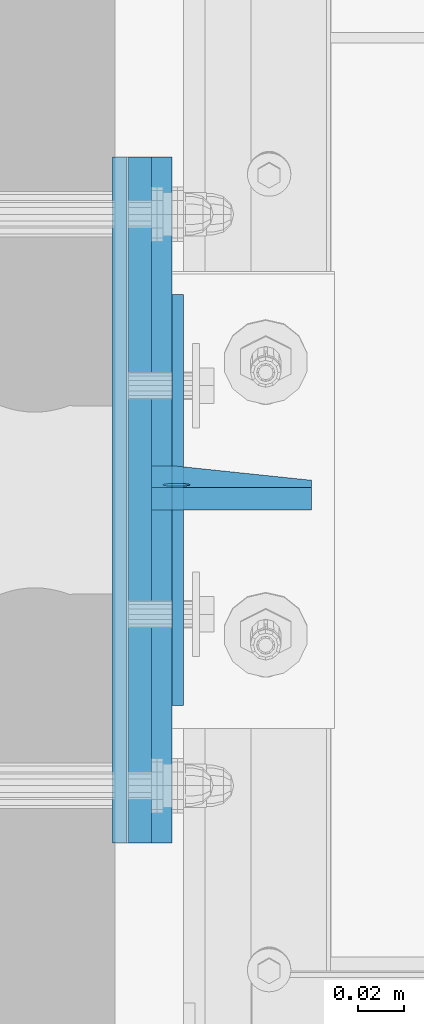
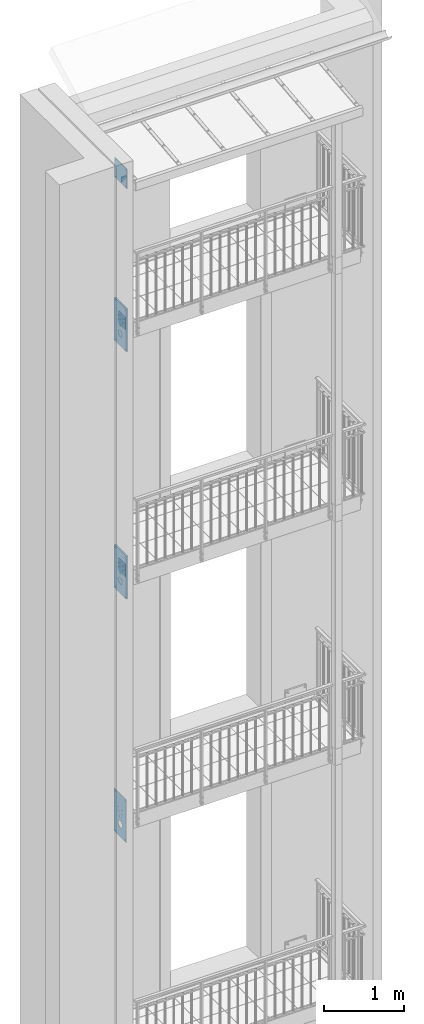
# One storey, part 55 of 162: 9 plates, 54 openings.
"""IFC2X3 building model written with IfcOpenShell, lengths in millimetres."""

from ifc_helpers import new_model, entity, si_unit, converted_unit, point, frame, frame_2d, origin, origin_with_axes, place, context, project, spatial, polyline, circle_curve, line_curve, trimmed, segment, composite_curve, circle, outline, extrude, material, layer, layer_set, element, save


model = new_model("IFC2X3")

# Units and contexts
model_context = context("Model", 3, precision=1e-09, world=origin_with_axes())
ifc_project = project(units=[si_unit("LENGTHUNIT", "METRE", prefix="MILLI"), si_unit("AREAUNIT", "SQUARE_METRE"), si_unit("VOLUMEUNIT", "CUBIC_METRE"), converted_unit("PLANEANGLEUNIT", "DEGREE", entity("IfcPlaneAngleMeasure", 0.01745329), si_unit("PLANEANGLEUNIT", "RADIAN"), dimensions=[0, 0, 0, 0, 0, 0, 0])], contexts=[model_context])

# Site, building, storey
site_placement = place(None, origin_with_axes())
site = spatial("IfcSite", under=ifc_project, at=site_placement, Name="Hermannstra?e 1a, 60318 Frankfurt", CompositionType="ELEMENT")
building_placement = place(site_placement, origin_with_axes())
building = spatial("IfcBuilding", under=site, at=building_placement, Name="Struktur 1", CompositionType="ELEMENT")
storey_placement = place(building_placement, origin_with_axes())
storey = spatial("IfcBuildingStorey", under=building, at=storey_placement, Name="Default Storey", CompositionType="ELEMENT", Elevation=0.0)

# Plate, openings
ifc_material_1 = material(Name="S235JR")
ifc_layer_1 = layer(ifc_material_1, 10.0)
ifc_layer_set_1 = layer_set([ifc_layer_1], Name="S235JR")
plate_1_placement = place(None, frame((2584.30936482, 1814.439624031, 17173.204091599), z_axis=(0.0, 0.994521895, 0.104528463), x_axis=(-1.0, 0.0, 0.0)))
plate_1 = element("IfcPlate", 1, at=plate_1_placement, inside=storey, material=ifc_layer_set_1, Name="-", ObjectType="-", context=model_context, shape_type="SweptSolid", body=[
    extrude(outline(polyline([(-25.0, 37.042049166), (45.0, 37.042049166), (45.0, 127.042049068), (-25.0, 127.042049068), (-25.0, 37.042049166)])), origin_with_axes(), (0.0, 0.0, 1.0), 10.0),
])
opening_1_placement = place(plate_1_placement, frame((45.0, 102.042049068, -0.5), z_axis=(0.0, 0.0, 1.0), x_axis=(1.0, 0.0, 0.0)))
element("IfcOpeningElement", 2, at=opening_1_placement, cuts=plate_1, ObjectType="Opening", context=model_context, shape_type="SweptSolid", body=[
    extrude(circle(Radius=6.001, at=frame_2d((-11.0, 14.0), x_axis=(1.0, 0.0))), origin(), (0.0, 0.0, 1.0), 11.0),
])
opening_2_placement = place(plate_1_placement, frame((0.0, -22.042049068, -0.01), z_axis=(0.0, 0.0, 1.0), x_axis=(1.0, 0.0, 0.0)))
element("IfcOpeningElement", 3, at=opening_2_placement, cuts=plate_1, ObjectType="Opening", context=model_context, shape_type="SweptSolid", body=[
    extrude(outline(polyline([(-25.0, 59.084098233), (35.0, 59.084098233), (-25.0, 119.084098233), (-25.0, 59.084098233)])), origin(), (0.0, 0.0, 1.0), 10.02),
])

plate_2_placement = place(None, frame((2529.30936482, 1805.610081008, 17360.045442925), z_axis=(1.0, 0.0, 0.0), x_axis=(0.0, 1.0, 0.0)))
plate_2 = element("IfcPlate", 4, at=plate_2_placement, inside=storey, material=ifc_layer_set_1, Name="-", ObjectType="-", context=model_context, shape_type="SweptSolid", body=[
    extrude(outline(polyline([(-150.0, -150.0), (150.0, -150.0), (150.0, 150.0), (-150.0, 150.0), (-150.0, -150.0)])), origin_with_axes(), (0.0, 0.0, 1.0), 10.0),
])
opening_3_placement = place(plate_2_placement, frame((0.0, 0.0, -0.5), z_axis=(0.0, 0.0, 1.0), x_axis=(1.0, 0.0, 0.0)))
element("IfcOpeningElement", 5, at=opening_3_placement, cuts=plate_2, ObjectType="Opening", context=model_context, shape_type="SweptSolid", body=[
    extrude(circle(Radius=8.001, at=frame_2d((125.0, 125.0), x_axis=(1.0, 0.0))), origin(), (0.0, 0.0, 1.0), 11.0),
])
opening_4_placement = place(plate_2_placement, frame((0.0, 0.0, -0.5), z_axis=(0.0, 0.0, 1.0), x_axis=(1.0, 0.0, 0.0)))
element("IfcOpeningElement", 6, at=opening_4_placement, cuts=plate_2, ObjectType="Opening", context=model_context, shape_type="SweptSolid", body=[
    extrude(circle(Radius=8.001, at=frame_2d((-125.0, 125.0), x_axis=(1.0, 0.0))), origin(), (0.0, 0.0, 1.0), 11.0),
])
opening_5_placement = place(plate_2_placement, frame((0.0, 0.0, -0.5), z_axis=(0.0, 0.0, 1.0), x_axis=(1.0, 0.0, 0.0)))
element("IfcOpeningElement", 7, at=opening_5_placement, cuts=plate_2, ObjectType="Opening", context=model_context, shape_type="SweptSolid", body=[
    extrude(circle(Radius=8.001, at=frame_2d((125.0, -125.0), x_axis=(1.0, 0.0))), origin(), (0.0, 0.0, 1.0), 11.0),
])
opening_6_placement = place(plate_2_placement, frame((0.0, 0.0, -0.5), z_axis=(0.0, 0.0, 1.0), x_axis=(1.0, 0.0, 0.0)))
element("IfcOpeningElement", 8, at=opening_6_placement, cuts=plate_2, ObjectType="Opening", context=model_context, shape_type="SweptSolid", body=[
    extrude(circle(Radius=8.001, at=frame_2d((-125.0, -125.0), x_axis=(1.0, 0.0))), origin(), (0.0, 0.0, 1.0), 11.0),
])

ifc_layer_2 = layer(ifc_material_1, 20.0)
ifc_layer_set_2 = layer_set([ifc_layer_2], Name="S235JR")
plate_3_placement = place(None, frame((2528.30936482, 1805.609373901, 11304.999), z_axis=(1.0, 0.0, 0.0), x_axis=(0.0, 1.0, 0.0)))
plate_3 = element("IfcPlate", 9, at=plate_3_placement, inside=storey, material=ifc_layer_set_2, Name="-", ObjectType="-", context=model_context, shape_type="SweptSolid", body=[
    extrude(outline(polyline([(-150.0, -325.0), (150.0, -325.0), (150.0, 325.0), (-150.0, 325.0), (-150.0, -325.0)])), origin_with_axes(), (0.0, 0.0, 1.0), 20.0),
])
opening_7_placement = place(plate_3_placement, frame((0.0, 0.0, -0.5), z_axis=(0.0, 0.0, 1.0), x_axis=(1.0, 0.0, 0.0)))
element("IfcOpeningElement", 10, at=opening_7_placement, cuts=plate_3, ObjectType="Opening", context=model_context, shape_type="SweptSolid", body=[
    extrude(circle(Radius=8.001, at=frame_2d((125.0, 300.0), x_axis=(1.0, 0.0))), origin(), (0.0, 0.0, 1.0), 21.0),
])
opening_8_placement = place(plate_3_placement, frame((0.0, 0.0, -0.5), z_axis=(0.0, 0.0, 1.0), x_axis=(1.0, 0.0, 0.0)))
element("IfcOpeningElement", 11, at=opening_8_placement, cuts=plate_3, ObjectType="Opening", context=model_context, shape_type="SweptSolid", body=[
    extrude(circle(Radius=8.001, at=frame_2d((-125.0, 300.0), x_axis=(1.0, 0.0))), origin(), (0.0, 0.0, 1.0), 21.0),
])
opening_9_placement = place(plate_3_placement, frame((0.0, 0.0, -0.5), z_axis=(0.0, 0.0, 1.0), x_axis=(1.0, 0.0, 0.0)))
element("IfcOpeningElement", 12, at=opening_9_placement, cuts=plate_3, ObjectType="Opening", context=model_context, shape_type="SweptSolid", body=[
    extrude(circle(Radius=8.001, at=frame_2d((125.0, -300.0), x_axis=(1.0, 0.0))), origin(), (0.0, 0.0, 1.0), 21.0),
])
opening_10_placement = place(plate_3_placement, frame((0.0, 0.0, -0.5), z_axis=(0.0, 0.0, 1.0), x_axis=(1.0, 0.0, 0.0)))
element("IfcOpeningElement", 13, at=opening_10_placement, cuts=plate_3, ObjectType="Opening", context=model_context, shape_type="SweptSolid", body=[
    extrude(circle(Radius=8.001, at=frame_2d((-125.0, -300.0), x_axis=(1.0, 0.0))), origin(), (0.0, 0.0, 1.0), 21.0),
])
opening_11_placement = place(plate_3_placement, frame((0.0, -5.0, -0.5), z_axis=(0.0, 0.0, 1.0), x_axis=(1.0, 0.0, 0.0)))
element("IfcOpeningElement", 14, at=opening_11_placement, cuts=plate_3, ObjectType="Opening", context=model_context, shape_type="SweptSolid", body=[
    extrude(circle(Radius=15.001, at=frame_2d((0.0, -10.0), x_axis=(1.0, 0.0))), origin(), (0.0, 0.0, 1.0), 21.0),
])

ifc_material_2 = material(Name="Thermostop")
ifc_layer_3 = layer(ifc_material_2, 6.0)
ifc_layer_set_3 = layer_set([ifc_layer_3], Name="Thermostop")
plate_4_placement = place(None, frame((2522.30936482, 1805.609373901, 11304.999), z_axis=(1.0, 0.0, 0.0), x_axis=(0.0, 1.0, 0.0)))
plate_4 = element("IfcPlate", 15, at=plate_4_placement, inside=storey, material=ifc_layer_set_3, Name="-", ObjectType="-", context=model_context, shape_type="SweptSolid", body=[
    extrude(outline(polyline([(-150.0, -325.0), (150.0, -325.0), (150.0, 325.0), (-150.0, 325.0), (-150.0, -325.0)])), origin_with_axes(), (0.0, 0.0, 1.0), 6.0),
])
opening_12_placement = place(plate_4_placement, frame((0.0, 0.0, -0.5), z_axis=(0.0, 0.0, 1.0), x_axis=(1.0, 0.0, 0.0)))
element("IfcOpeningElement", 16, at=opening_12_placement, cuts=plate_4, ObjectType="Opening", context=model_context, shape_type="SweptSolid", body=[
    extrude(circle(Radius=10.001, at=frame_2d((125.0, 300.0), x_axis=(1.0, 0.0))), origin(), (0.0, 0.0, 1.0), 7.0),
])
opening_13_placement = place(plate_4_placement, frame((0.0, 0.0, -0.5), z_axis=(0.0, 0.0, 1.0), x_axis=(1.0, 0.0, 0.0)))
element("IfcOpeningElement", 17, at=opening_13_placement, cuts=plate_4, ObjectType="Opening", context=model_context, shape_type="SweptSolid", body=[
    extrude(circle(Radius=10.001, at=frame_2d((-125.0, 300.0), x_axis=(1.0, 0.0))), origin(), (0.0, 0.0, 1.0), 7.0),
])
opening_14_placement = place(plate_4_placement, frame((0.0, 0.0, -0.5), z_axis=(0.0, 0.0, 1.0), x_axis=(1.0, 0.0, 0.0)))
element("IfcOpeningElement", 18, at=opening_14_placement, cuts=plate_4, ObjectType="Opening", context=model_context, shape_type="SweptSolid", body=[
    extrude(circle(Radius=10.001, at=frame_2d((125.0, -300.0), x_axis=(1.0, 0.0))), origin(), (0.0, 0.0, 1.0), 7.0),
])
opening_15_placement = place(plate_4_placement, frame((0.0, 0.0, -0.5), z_axis=(0.0, 0.0, 1.0), x_axis=(1.0, 0.0, 0.0)))
element("IfcOpeningElement", 19, at=opening_15_placement, cuts=plate_4, ObjectType="Opening", context=model_context, shape_type="SweptSolid", body=[
    extrude(circle(Radius=10.001, at=frame_2d((-125.0, -300.0), x_axis=(1.0, 0.0))), origin(), (0.0, 0.0, 1.0), 7.0),
])
opening_16_placement = place(plate_4_placement, frame((0.0, -40.0, -0.5), z_axis=(0.0, 0.0, 1.0), x_axis=(1.0, 0.0, 0.0)))
element("IfcOpeningElement", 20, at=opening_16_placement, cuts=plate_4, ObjectType="Opening", context=model_context, shape_type="SweptSolid", body=[
    extrude(circle(Radius=11.001, at=frame_2d((50.0, 150.0), x_axis=(1.0, 0.0))), origin(), (0.0, 0.0, 1.0), 7.0),
])
opening_17_placement = place(plate_4_placement, frame((0.0, -40.0, -0.5), z_axis=(0.0, 0.0, 1.0), x_axis=(1.0, 0.0, 0.0)))
element("IfcOpeningElement", 21, at=opening_17_placement, cuts=plate_4, ObjectType="Opening", context=model_context, shape_type="SweptSolid", body=[
    extrude(circle(Radius=11.001, at=frame_2d((-50.0, 150.0), x_axis=(1.0, 0.0))), origin(), (0.0, 0.0, 1.0), 7.0),
])
opening_18_placement = place(plate_4_placement, frame((0.0, -40.0, -0.5), z_axis=(0.0, 0.0, 1.0), x_axis=(1.0, 0.0, 0.0)))
element("IfcOpeningElement", 22, at=opening_18_placement, cuts=plate_4, ObjectType="Opening", context=model_context, shape_type="SweptSolid", body=[
    extrude(circle(Radius=11.001, at=frame_2d((50.0, 90.0), x_axis=(1.0, 0.0))), origin(), (0.0, 0.0, 1.0), 7.0),
])
opening_19_placement = place(plate_4_placement, frame((0.0, -40.0, -0.5), z_axis=(0.0, 0.0, 1.0), x_axis=(1.0, 0.0, 0.0)))
element("IfcOpeningElement", 23, at=opening_19_placement, cuts=plate_4, ObjectType="Opening", context=model_context, shape_type="SweptSolid", body=[
    extrude(circle(Radius=11.001, at=frame_2d((-50.0, 90.0), x_axis=(1.0, 0.0))), origin(), (0.0, 0.0, 1.0), 7.0),
])
opening_20_placement = place(plate_4_placement, frame((0.0, -125.0, -0.5), z_axis=(0.0, 0.0, 1.0), x_axis=(1.0, 0.0, 0.0)))
element("IfcOpeningElement", 24, at=opening_20_placement, cuts=plate_4, ObjectType="Opening", context=model_context, shape_type="SweptSolid", body=[
    extrude(circle(Radius=50.001, at=frame_2d((0.0, -10.0), x_axis=(1.0, 0.0))), origin(), (0.0, 0.0, 1.0), 7.0),
])
opening_21_placement = place(plate_4_placement, frame((0.0, -325.0, -0.5), z_axis=(0.0, 0.0, 1.0), x_axis=(1.0, 0.0, 0.0)))
element("IfcOpeningElement", 25, at=opening_21_placement, cuts=plate_4, ObjectType="Opening", context=model_context, shape_type="SweptSolid", body=[
    extrude(circle(Radius=15.001, at=frame_2d((0.0, 310.0), x_axis=(1.0, 0.0))), origin(), (0.0, 0.0, 1.0), 7.0),
])

ifc_layer_4 = layer(ifc_material_1, 5.0)
ifc_layer_set_4 = layer_set([ifc_layer_4], Name="S235JR")
plate_5_placement = place(None, frame((2548.30936482, 1805.609373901, 11364.999), z_axis=(1.0, 0.0, 0.0), x_axis=(0.0, 1.0, 0.0)))
plate_5 = element("IfcPlate", 26, at=plate_5_placement, inside=storey, material=ifc_layer_set_4, Name="-", ObjectType="-", context=model_context, shape_type="SweptSolid", body=[
    extrude(outline(polyline([(-90.0, -100.0), (90.0, -100.0), (90.0, 100.0), (-90.0, 100.0), (-90.0, -100.0)])), origin_with_axes(), (0.0, 0.0, 1.0), 5.0),
])
opening_22_placement = place(plate_5_placement, frame((-2e-08, 19.999999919, -0.5), z_axis=(0.0, 0.0, 1.0), x_axis=(1.0, 0.0, 0.0)))
element("IfcOpeningElement", 27, at=opening_22_placement, cuts=plate_5, ObjectType="Opening", context=model_context, shape_type="SweptSolid", body=[
    extrude(outline(composite_curve([segment(trimmed(line_curve((41.5, 20.999), (1.0, 0.0), 17.0), [point((41.5, 20.999))], [point((58.5, 20.999))], True, "CARTESIAN"), True, "CONTINUOUS"), segment(trimmed(circle_curve(frame_2d((58.5, 30.0), x_axis=(1.0, 0.0)), 9.001), [point((58.5, 20.999))], [point((58.5, 39.001))], True, "CARTESIAN"), True, "CONTINUOUS"), segment(trimmed(line_curve((58.5, 39.001), (-1.0, 0.0), 17.0), [point((58.5, 39.001))], [point((41.5, 39.001))], True, "CARTESIAN"), True, "CONTINUOUS"), segment(trimmed(circle_curve(frame_2d((41.5, 30.0), x_axis=(1.0, 0.0)), 9.001), [point((41.5, 39.001))], [point((41.5, 20.999))], True, "CARTESIAN"), True, "CONTINUOUS")], self_intersect=False)), origin(), (0.0, 0.0, 1.0), 6.0),
])
opening_23_placement = place(plate_5_placement, frame((-2e-08, 19.999999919, -0.5), z_axis=(0.0, 0.0, 1.0), x_axis=(1.0, 0.0, 0.0)))
element("IfcOpeningElement", 28, at=opening_23_placement, cuts=plate_5, ObjectType="Opening", context=model_context, shape_type="SweptSolid", body=[
    extrude(outline(composite_curve([segment(trimmed(line_curve((-58.5, 20.999), (1.0, 0.0), 17.0), [point((-58.5, 20.999))], [point((-41.5, 20.999))], True, "CARTESIAN"), True, "CONTINUOUS"), segment(trimmed(circle_curve(frame_2d((-41.5, 30.0), x_axis=(1.0, 0.0)), 9.001), [point((-41.5, 20.999))], [point((-41.5, 39.001))], True, "CARTESIAN"), True, "CONTINUOUS"), segment(trimmed(line_curve((-41.5, 39.001), (-1.0, 0.0), 17.0), [point((-41.5, 39.001))], [point((-58.5, 39.001))], True, "CARTESIAN"), True, "CONTINUOUS"), segment(trimmed(circle_curve(frame_2d((-58.5, 30.0), x_axis=(1.0, 0.0)), 9.001), [point((-58.5, 39.001))], [point((-58.5, 20.999))], True, "CARTESIAN"), True, "CONTINUOUS")], self_intersect=False)), origin(), (0.0, 0.0, 1.0), 6.0),
])
opening_24_placement = place(plate_5_placement, frame((-2e-08, 19.999999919, -0.5), z_axis=(0.0, 0.0, 1.0), x_axis=(1.0, 0.0, 0.0)))
element("IfcOpeningElement", 29, at=opening_24_placement, cuts=plate_5, ObjectType="Opening", context=model_context, shape_type="SweptSolid", body=[
    extrude(outline(composite_curve([segment(trimmed(line_curve((41.5, -39.001), (1.0, 0.0), 17.0), [point((41.5, -39.001))], [point((58.5, -39.001))], True, "CARTESIAN"), True, "CONTINUOUS"), segment(trimmed(circle_curve(frame_2d((58.5, -30.0), x_axis=(1.0, 0.0)), 9.001), [point((58.5, -39.001))], [point((58.5, -20.999))], True, "CARTESIAN"), True, "CONTINUOUS"), segment(trimmed(line_curve((58.5, -20.999), (-1.0, 0.0), 17.0), [point((58.5, -20.999))], [point((41.5, -20.999))], True, "CARTESIAN"), True, "CONTINUOUS"), segment(trimmed(circle_curve(frame_2d((41.5, -30.0), x_axis=(1.0, 0.0)), 9.001), [point((41.5, -20.999))], [point((41.5, -39.001))], True, "CARTESIAN"), True, "CONTINUOUS")], self_intersect=False)), origin(), (0.0, 0.0, 1.0), 6.0),
])
opening_25_placement = place(plate_5_placement, frame((-2e-08, 19.999999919, -0.5), z_axis=(0.0, 0.0, 1.0), x_axis=(1.0, 0.0, 0.0)))
element("IfcOpeningElement", 30, at=opening_25_placement, cuts=plate_5, ObjectType="Opening", context=model_context, shape_type="SweptSolid", body=[
    extrude(outline(composite_curve([segment(trimmed(line_curve((-58.5, -39.001), (1.0, 0.0), 17.0), [point((-58.5, -39.001))], [point((-41.5, -39.001))], True, "CARTESIAN"), True, "CONTINUOUS"), segment(trimmed(circle_curve(frame_2d((-41.5, -30.0), x_axis=(1.0, 0.0)), 9.001), [point((-41.5, -39.001))], [point((-41.5, -20.999))], True, "CARTESIAN"), True, "CONTINUOUS"), segment(trimmed(line_curve((-41.5, -20.999), (-1.0, 0.0), 17.0), [point((-41.5, -20.999))], [point((-58.5, -20.999))], True, "CARTESIAN"), True, "CONTINUOUS"), segment(trimmed(circle_curve(frame_2d((-58.5, -30.0), x_axis=(1.0, 0.0)), 9.001), [point((-58.5, -20.999))], [point((-58.5, -39.001))], True, "CARTESIAN"), True, "CONTINUOUS")], self_intersect=False)), origin(), (0.0, 0.0, 1.0), 6.0),
])

plate_6_placement = place(None, frame((2522.310071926, 1805.610081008, 15061.999), z_axis=(1.0, 0.0, 0.0), x_axis=(0.0, 1.0, 0.0)))
plate_6 = element("IfcPlate", 31, at=plate_6_placement, inside=storey, material=ifc_layer_set_3, Name="-", ObjectType="-", context=model_context, shape_type="SweptSolid", body=[
    extrude(outline(polyline([(-150.0, -325.0), (150.0, -325.0), (150.0, 325.0), (-150.0, 325.0), (-150.0, -325.0)])), origin_with_axes(), (0.0, 0.0, 1.0), 6.0),
])
opening_26_placement = place(plate_6_placement, frame((0.0, 0.0, -0.5), z_axis=(0.0, 0.0, 1.0), x_axis=(1.0, 0.0, 0.0)))
element("IfcOpeningElement", 32, at=opening_26_placement, cuts=plate_6, ObjectType="Opening", context=model_context, shape_type="SweptSolid", body=[
    extrude(circle(Radius=10.001, at=frame_2d((125.0, 300.0), x_axis=(1.0, 0.0))), origin(), (0.0, 0.0, 1.0), 7.0),
])
opening_27_placement = place(plate_6_placement, frame((0.0, 0.0, -0.5), z_axis=(0.0, 0.0, 1.0), x_axis=(1.0, 0.0, 0.0)))
element("IfcOpeningElement", 33, at=opening_27_placement, cuts=plate_6, ObjectType="Opening", context=model_context, shape_type="SweptSolid", body=[
    extrude(circle(Radius=10.001, at=frame_2d((-125.0, 300.0), x_axis=(1.0, 0.0))), origin(), (0.0, 0.0, 1.0), 7.0),
])
opening_28_placement = place(plate_6_placement, frame((0.0, 0.0, -0.5), z_axis=(0.0, 0.0, 1.0), x_axis=(1.0, 0.0, 0.0)))
element("IfcOpeningElement", 34, at=opening_28_placement, cuts=plate_6, ObjectType="Opening", context=model_context, shape_type="SweptSolid", body=[
    extrude(circle(Radius=10.001, at=frame_2d((125.0, -300.0), x_axis=(1.0, 0.0))), origin(), (0.0, 0.0, 1.0), 7.0),
])
opening_29_placement = place(plate_6_placement, frame((0.0, 0.0, -0.5), z_axis=(0.0, 0.0, 1.0), x_axis=(1.0, 0.0, 0.0)))
element("IfcOpeningElement", 35, at=opening_29_placement, cuts=plate_6, ObjectType="Opening", context=model_context, shape_type="SweptSolid", body=[
    extrude(circle(Radius=10.001, at=frame_2d((-125.0, -300.0), x_axis=(1.0, 0.0))), origin(), (0.0, 0.0, 1.0), 7.0),
])
opening_30_placement = place(plate_6_placement, frame((0.0, -40.0, -0.5), z_axis=(0.0, 0.0, 1.0), x_axis=(1.0, 0.0, 0.0)))
element("IfcOpeningElement", 36, at=opening_30_placement, cuts=plate_6, ObjectType="Opening", context=model_context, shape_type="SweptSolid", body=[
    extrude(circle(Radius=11.001, at=frame_2d((50.0, 150.0), x_axis=(1.0, 0.0))), origin(), (0.0, 0.0, 1.0), 7.0),
])
opening_31_placement = place(plate_6_placement, frame((0.0, -40.0, -0.5), z_axis=(0.0, 0.0, 1.0), x_axis=(1.0, 0.0, 0.0)))
element("IfcOpeningElement", 37, at=opening_31_placement, cuts=plate_6, ObjectType="Opening", context=model_context, shape_type="SweptSolid", body=[
    extrude(circle(Radius=11.001, at=frame_2d((-50.0, 150.0), x_axis=(1.0, 0.0))), origin(), (0.0, 0.0, 1.0), 7.0),
])
opening_32_placement = place(plate_6_placement, frame((0.0, -40.0, -0.5), z_axis=(0.0, 0.0, 1.0), x_axis=(1.0, 0.0, 0.0)))
element("IfcOpeningElement", 38, at=opening_32_placement, cuts=plate_6, ObjectType="Opening", context=model_context, shape_type="SweptSolid", body=[
    extrude(circle(Radius=11.001, at=frame_2d((50.0, 90.0), x_axis=(1.0, 0.0))), origin(), (0.0, 0.0, 1.0), 7.0),
])
opening_33_placement = place(plate_6_placement, frame((0.0, -40.0, -0.5), z_axis=(0.0, 0.0, 1.0), x_axis=(1.0, 0.0, 0.0)))
element("IfcOpeningElement", 39, at=opening_33_placement, cuts=plate_6, ObjectType="Opening", context=model_context, shape_type="SweptSolid", body=[
    extrude(circle(Radius=11.001, at=frame_2d((-50.0, 90.0), x_axis=(1.0, 0.0))), origin(), (0.0, 0.0, 1.0), 7.0),
])
opening_34_placement = place(plate_6_placement, frame((0.0, -125.0, -0.5), z_axis=(0.0, 0.0, 1.0), x_axis=(1.0, 0.0, 0.0)))
element("IfcOpeningElement", 40, at=opening_34_placement, cuts=plate_6, ObjectType="Opening", context=model_context, shape_type="SweptSolid", body=[
    extrude(circle(Radius=50.001, at=frame_2d((0.0, -10.0), x_axis=(1.0, 0.0))), origin(), (0.0, 0.0, 1.0), 7.0),
])
opening_35_placement = place(plate_6_placement, frame((0.0, -325.0, -0.5), z_axis=(0.0, 0.0, 1.0), x_axis=(1.0, 0.0, 0.0)))
element("IfcOpeningElement", 41, at=opening_35_placement, cuts=plate_6, ObjectType="Opening", context=model_context, shape_type="SweptSolid", body=[
    extrude(circle(Radius=15.001, at=frame_2d((0.0, 310.0), x_axis=(1.0, 0.0))), origin(), (0.0, 0.0, 1.0), 7.0),
])

plate_7_placement = place(None, frame((2528.310071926, 1805.610081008, 15061.999), z_axis=(1.0, 0.0, 0.0), x_axis=(0.0, 1.0, 0.0)))
plate_7 = element("IfcPlate", 42, at=plate_7_placement, inside=storey, material=ifc_layer_set_2, Name="-", ObjectType="-", context=model_context, shape_type="SweptSolid", body=[
    extrude(outline(polyline([(-150.0, -325.0), (150.0, -325.0), (150.0, 325.0), (-150.0, 325.0), (-150.0, -325.0)])), origin_with_axes(), (0.0, 0.0, 1.0), 20.0),
])
opening_36_placement = place(plate_7_placement, frame((0.0, 0.0, -0.5), z_axis=(0.0, 0.0, 1.0), x_axis=(1.0, 0.0, 0.0)))
element("IfcOpeningElement", 43, at=opening_36_placement, cuts=plate_7, ObjectType="Opening", context=model_context, shape_type="SweptSolid", body=[
    extrude(circle(Radius=8.001, at=frame_2d((125.0, 300.0), x_axis=(1.0, 0.0))), origin(), (0.0, 0.0, 1.0), 21.0),
])
opening_37_placement = place(plate_7_placement, frame((0.0, 0.0, -0.5), z_axis=(0.0, 0.0, 1.0), x_axis=(1.0, 0.0, 0.0)))
element("IfcOpeningElement", 44, at=opening_37_placement, cuts=plate_7, ObjectType="Opening", context=model_context, shape_type="SweptSolid", body=[
    extrude(circle(Radius=8.001, at=frame_2d((-125.0, 300.0), x_axis=(1.0, 0.0))), origin(), (0.0, 0.0, 1.0), 21.0),
])
opening_38_placement = place(plate_7_placement, frame((0.0, 0.0, -0.5), z_axis=(0.0, 0.0, 1.0), x_axis=(1.0, 0.0, 0.0)))
element("IfcOpeningElement", 45, at=opening_38_placement, cuts=plate_7, ObjectType="Opening", context=model_context, shape_type="SweptSolid", body=[
    extrude(circle(Radius=8.001, at=frame_2d((125.0, -300.0), x_axis=(1.0, 0.0))), origin(), (0.0, 0.0, 1.0), 21.0),
])
opening_39_placement = place(plate_7_placement, frame((0.0, 0.0, -0.5), z_axis=(0.0, 0.0, 1.0), x_axis=(1.0, 0.0, 0.0)))
element("IfcOpeningElement", 46, at=opening_39_placement, cuts=plate_7, ObjectType="Opening", context=model_context, shape_type="SweptSolid", body=[
    extrude(circle(Radius=8.001, at=frame_2d((-125.0, -300.0), x_axis=(1.0, 0.0))), origin(), (0.0, 0.0, 1.0), 21.0),
])
opening_40_placement = place(plate_7_placement, frame((0.0, -5.0, -0.5), z_axis=(0.0, 0.0, 1.0), x_axis=(1.0, 0.0, 0.0)))
element("IfcOpeningElement", 47, at=opening_40_placement, cuts=plate_7, ObjectType="Opening", context=model_context, shape_type="SweptSolid", body=[
    extrude(circle(Radius=15.001, at=frame_2d((0.0, -10.0), x_axis=(1.0, 0.0))), origin(), (0.0, 0.0, 1.0), 21.0),
])

plate_8_placement = place(None, frame((2548.310071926, 1805.610081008, 15121.999), z_axis=(1.0, 0.0, 0.0), x_axis=(0.0, 1.0, 0.0)))
plate_8 = element("IfcPlate", 48, at=plate_8_placement, inside=storey, material=ifc_layer_set_4, Name="-", ObjectType="-", context=model_context, shape_type="SweptSolid", body=[
    extrude(outline(polyline([(-90.0, -100.0), (90.0, -100.0), (90.0, 100.0), (-90.0, 100.0), (-90.0, -100.0)])), origin_with_axes(), (0.0, 0.0, 1.0), 5.0),
])
opening_41_placement = place(plate_8_placement, frame((-2e-08, 19.999999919, -0.5), z_axis=(0.0, 0.0, 1.0), x_axis=(1.0, 0.0, 0.0)))
element("IfcOpeningElement", 49, at=opening_41_placement, cuts=plate_8, ObjectType="Opening", context=model_context, shape_type="SweptSolid", body=[
    extrude(outline(composite_curve([segment(trimmed(line_curve((41.5, 20.999), (1.0, 0.0), 17.0), [point((41.5, 20.999))], [point((58.5, 20.999))], True, "CARTESIAN"), True, "CONTINUOUS"), segment(trimmed(circle_curve(frame_2d((58.5, 30.0), x_axis=(1.0, 0.0)), 9.001), [point((58.5, 20.999))], [point((58.5, 39.001))], True, "CARTESIAN"), True, "CONTINUOUS"), segment(trimmed(line_curve((58.5, 39.001), (-1.0, 0.0), 17.0), [point((58.5, 39.001))], [point((41.5, 39.001))], True, "CARTESIAN"), True, "CONTINUOUS"), segment(trimmed(circle_curve(frame_2d((41.5, 30.0), x_axis=(1.0, 0.0)), 9.001), [point((41.5, 39.001))], [point((41.5, 20.999))], True, "CARTESIAN"), True, "CONTINUOUS")], self_intersect=False)), origin(), (0.0, 0.0, 1.0), 6.0),
])
opening_42_placement = place(plate_8_placement, frame((-2e-08, 19.999999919, -0.5), z_axis=(0.0, 0.0, 1.0), x_axis=(1.0, 0.0, 0.0)))
element("IfcOpeningElement", 50, at=opening_42_placement, cuts=plate_8, ObjectType="Opening", context=model_context, shape_type="SweptSolid", body=[
    extrude(outline(composite_curve([segment(trimmed(line_curve((-58.5, 20.999), (1.0, 0.0), 17.0), [point((-58.5, 20.999))], [point((-41.5, 20.999))], True, "CARTESIAN"), True, "CONTINUOUS"), segment(trimmed(circle_curve(frame_2d((-41.5, 30.0), x_axis=(1.0, 0.0)), 9.001), [point((-41.5, 20.999))], [point((-41.5, 39.001))], True, "CARTESIAN"), True, "CONTINUOUS"), segment(trimmed(line_curve((-41.5, 39.001), (-1.0, 0.0), 17.0), [point((-41.5, 39.001))], [point((-58.5, 39.001))], True, "CARTESIAN"), True, "CONTINUOUS"), segment(trimmed(circle_curve(frame_2d((-58.5, 30.0), x_axis=(1.0, 0.0)), 9.001), [point((-58.5, 39.001))], [point((-58.5, 20.999))], True, "CARTESIAN"), True, "CONTINUOUS")], self_intersect=False)), origin(), (0.0, 0.0, 1.0), 6.0),
])
opening_43_placement = place(plate_8_placement, frame((-2e-08, 19.999999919, -0.5), z_axis=(0.0, 0.0, 1.0), x_axis=(1.0, 0.0, 0.0)))
element("IfcOpeningElement", 51, at=opening_43_placement, cuts=plate_8, ObjectType="Opening", context=model_context, shape_type="SweptSolid", body=[
    extrude(outline(composite_curve([segment(trimmed(line_curve((41.5, -39.001), (1.0, 0.0), 17.0), [point((41.5, -39.001))], [point((58.5, -39.001))], True, "CARTESIAN"), True, "CONTINUOUS"), segment(trimmed(circle_curve(frame_2d((58.5, -30.0), x_axis=(1.0, 0.0)), 9.001), [point((58.5, -39.001))], [point((58.5, -20.999))], True, "CARTESIAN"), True, "CONTINUOUS"), segment(trimmed(line_curve((58.5, -20.999), (-1.0, 0.0), 17.0), [point((58.5, -20.999))], [point((41.5, -20.999))], True, "CARTESIAN"), True, "CONTINUOUS"), segment(trimmed(circle_curve(frame_2d((41.5, -30.0), x_axis=(1.0, 0.0)), 9.001), [point((41.5, -20.999))], [point((41.5, -39.001))], True, "CARTESIAN"), True, "CONTINUOUS")], self_intersect=False)), origin(), (0.0, 0.0, 1.0), 6.0),
])
opening_44_placement = place(plate_8_placement, frame((-2e-08, 19.999999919, -0.5), z_axis=(0.0, 0.0, 1.0), x_axis=(1.0, 0.0, 0.0)))
element("IfcOpeningElement", 52, at=opening_44_placement, cuts=plate_8, ObjectType="Opening", context=model_context, shape_type="SweptSolid", body=[
    extrude(outline(composite_curve([segment(trimmed(line_curve((-58.5, -39.001), (1.0, 0.0), 17.0), [point((-58.5, -39.001))], [point((-41.5, -39.001))], True, "CARTESIAN"), True, "CONTINUOUS"), segment(trimmed(circle_curve(frame_2d((-41.5, -30.0), x_axis=(1.0, 0.0)), 9.001), [point((-41.5, -39.001))], [point((-41.5, -20.999))], True, "CARTESIAN"), True, "CONTINUOUS"), segment(trimmed(line_curve((-41.5, -20.999), (-1.0, 0.0), 17.0), [point((-41.5, -20.999))], [point((-58.5, -20.999))], True, "CARTESIAN"), True, "CONTINUOUS"), segment(trimmed(circle_curve(frame_2d((-58.5, -30.0), x_axis=(1.0, 0.0)), 9.001), [point((-58.5, -20.999))], [point((-58.5, -39.001))], True, "CARTESIAN"), True, "CONTINUOUS")], self_intersect=False)), origin(), (0.0, 0.0, 1.0), 6.0),
])

plate_9_placement = place(None, frame((2522.308657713, 1805.608666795, 7605.0), z_axis=(1.0, 0.0, 0.0), x_axis=(0.0, 1.0, 0.0)))
plate_9 = element("IfcPlate", 53, at=plate_9_placement, inside=storey, material=ifc_layer_set_3, Name="-", ObjectType="-", context=model_context, shape_type="SweptSolid", body=[
    extrude(outline(polyline([(-150.0, -325.0), (150.0, -325.0), (150.0, 325.0), (-150.0, 325.0), (-150.0, -325.0)])), origin_with_axes(), (0.0, 0.0, 1.0), 6.0),
])
opening_45_placement = place(plate_9_placement, frame((0.0, 0.0, -0.5), z_axis=(0.0, 0.0, 1.0), x_axis=(1.0, 0.0, 0.0)))
element("IfcOpeningElement", 54, at=opening_45_placement, cuts=plate_9, ObjectType="Opening", context=model_context, shape_type="SweptSolid", body=[
    extrude(circle(Radius=10.001, at=frame_2d((125.0, 300.0), x_axis=(1.0, 0.0))), origin(), (0.0, 0.0, 1.0), 7.0),
])
opening_46_placement = place(plate_9_placement, frame((0.0, 0.0, -0.5), z_axis=(0.0, 0.0, 1.0), x_axis=(1.0, 0.0, 0.0)))
element("IfcOpeningElement", 55, at=opening_46_placement, cuts=plate_9, ObjectType="Opening", context=model_context, shape_type="SweptSolid", body=[
    extrude(circle(Radius=10.001, at=frame_2d((-125.0, 300.0), x_axis=(1.0, 0.0))), origin(), (0.0, 0.0, 1.0), 7.0),
])
opening_47_placement = place(plate_9_placement, frame((0.0, 0.0, -0.5), z_axis=(0.0, 0.0, 1.0), x_axis=(1.0, 0.0, 0.0)))
element("IfcOpeningElement", 56, at=opening_47_placement, cuts=plate_9, ObjectType="Opening", context=model_context, shape_type="SweptSolid", body=[
    extrude(circle(Radius=10.001, at=frame_2d((125.0, -300.0), x_axis=(1.0, 0.0))), origin(), (0.0, 0.0, 1.0), 7.0),
])
opening_48_placement = place(plate_9_placement, frame((0.0, 0.0, -0.5), z_axis=(0.0, 0.0, 1.0), x_axis=(1.0, 0.0, 0.0)))
element("IfcOpeningElement", 57, at=opening_48_placement, cuts=plate_9, ObjectType="Opening", context=model_context, shape_type="SweptSolid", body=[
    extrude(circle(Radius=10.001, at=frame_2d((-125.0, -300.0), x_axis=(1.0, 0.0))), origin(), (0.0, 0.0, 1.0), 7.0),
])
opening_49_placement = place(plate_9_placement, frame((0.0, -40.0, -0.5), z_axis=(0.0, 0.0, 1.0), x_axis=(1.0, 0.0, 0.0)))
element("IfcOpeningElement", 58, at=opening_49_placement, cuts=plate_9, ObjectType="Opening", context=model_context, shape_type="SweptSolid", body=[
    extrude(circle(Radius=11.001, at=frame_2d((50.0, 150.0), x_axis=(1.0, 0.0))), origin(), (0.0, 0.0, 1.0), 7.0),
])
opening_50_placement = place(plate_9_placement, frame((0.0, -40.0, -0.5), z_axis=(0.0, 0.0, 1.0), x_axis=(1.0, 0.0, 0.0)))
element("IfcOpeningElement", 59, at=opening_50_placement, cuts=plate_9, ObjectType="Opening", context=model_context, shape_type="SweptSolid", body=[
    extrude(circle(Radius=11.001, at=frame_2d((-50.0, 150.0), x_axis=(1.0, 0.0))), origin(), (0.0, 0.0, 1.0), 7.0),
])
opening_51_placement = place(plate_9_placement, frame((0.0, -40.0, -0.5), z_axis=(0.0, 0.0, 1.0), x_axis=(1.0, 0.0, 0.0)))
element("IfcOpeningElement", 60, at=opening_51_placement, cuts=plate_9, ObjectType="Opening", context=model_context, shape_type="SweptSolid", body=[
    extrude(circle(Radius=11.001, at=frame_2d((50.0, 90.0), x_axis=(1.0, 0.0))), origin(), (0.0, 0.0, 1.0), 7.0),
])
opening_52_placement = place(plate_9_placement, frame((0.0, -40.0, -0.5), z_axis=(0.0, 0.0, 1.0), x_axis=(1.0, 0.0, 0.0)))
element("IfcOpeningElement", 61, at=opening_52_placement, cuts=plate_9, ObjectType="Opening", context=model_context, shape_type="SweptSolid", body=[
    extrude(circle(Radius=11.001, at=frame_2d((-50.0, 90.0), x_axis=(1.0, 0.0))), origin(), (0.0, 0.0, 1.0), 7.0),
])
opening_53_placement = place(plate_9_placement, frame((0.0, -125.0, -0.5), z_axis=(0.0, 0.0, 1.0), x_axis=(1.0, 0.0, 0.0)))
element("IfcOpeningElement", 62, at=opening_53_placement, cuts=plate_9, ObjectType="Opening", context=model_context, shape_type="SweptSolid", body=[
    extrude(circle(Radius=50.001, at=frame_2d((0.0, -10.0), x_axis=(1.0, 0.0))), origin(), (0.0, 0.0, 1.0), 7.0),
])
opening_54_placement = place(plate_9_placement, frame((0.0, -325.0, -0.5), z_axis=(0.0, 0.0, 1.0), x_axis=(1.0, 0.0, 0.0)))
element("IfcOpeningElement", 63, at=opening_54_placement, cuts=plate_9, ObjectType="Opening", context=model_context, shape_type="SweptSolid", body=[
    extrude(circle(Radius=15.001, at=frame_2d((0.0, 310.0), x_axis=(1.0, 0.0))), origin(), (0.0, 0.0, 1.0), 7.0),
])

save(model, "model.ifc")
